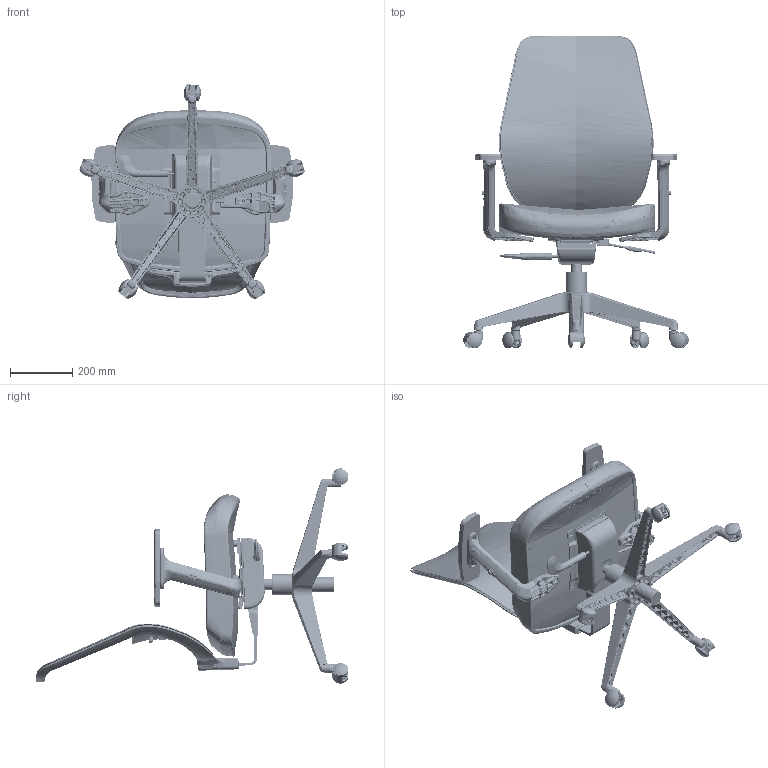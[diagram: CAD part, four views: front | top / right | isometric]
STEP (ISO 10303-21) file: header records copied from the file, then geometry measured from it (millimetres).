
FILE_DESCRIPTION((''),'2;1');
FILE_NAME('NERO_2_WD_MEC_BLK_CHAIR_0508_ASM','2024-08-05T',('shailendra.shah'),(''),'PRO/ENGINEER BY PARAMETRIC TECHNOLOGY CORPORATION, 2016100','PRO/ENGINEER BY PARAMETRIC TECHNOLOGY CORPORATION, 2016100','');
FILE_SCHEMA(('CONFIG_CONTROL_DESIGN'));
Length unit declared in the file: millimetre
Products named in the file (99): MANIFOLD_SOLID_BREP-15809_AF0_1; MANIFOLD_SOLID_BREP-15807_AF0__; MANIFOLD_SOLID_BREP-15805_AF0_1; MANIFOLD_SOLID_BREP-15803_AF0_1; ASM0010_AF0_ASM_4__ASM_1_ASM_1__ASM; ASM0009_AF0_ASM_4__ASM_2_ASM_1__ASM; MANIFOLD_SOLID_BREP_1901__1_1_1; MANIFOLD_SOLID_BREP_2218__1_1_1; _ASM0008_1__ASM_2_ASM_1_ASM_1_A_ASM; ASM0008_AF0_ASM_1__ASM_4_ASM_1__ASM; MANIFOLD_SOLID_BREP-15759_2__1_; ASM0010_ASM_4__ASM_2_1_1_1; ARM_ASM_3__1_1_1_1; MANIFOLD_SOLID_BREP-3_AF0_1__1_; MANIFOLD_SOLID_BREP-1_AF0_1__1_; A1_ASM_4__ASM_1_ASM_1_ASM_1_ASM_ASM; BASE_ASSLY_ASM_4__ASM_4_ASM_1_A_ASM; ASM0087__ASM_1_ASM_1_ASM_1_ASM__ASM; PRT0001_5__1_1_1_1; BREP_WITH_VOIDS_364073_1_1_1; MANIFOLD_SOLID_BREP_364190_1_1_; PRT0002_15__2_ASM_1_ASM_1_ASM_1_ASM; CASTOR_ASM_17__ASM_1_ASM_1_ASM__ASM; QUEST_SEAT_WOOD_1_1_1_1; FLUENCE_FOAM_THICKNESSINC_1_1_1; MANIFOLD_SOLID_BREP-1875_1__4_1; _3D_CAD_BLOCK_--_NERO_C_1_1_1_1; 3D_CAD_BLOCK_--_NERO_CHR__ASM_3_ASM; MANIFOLD_SOLID_BREP_1428_1_1__1; MANIFOLD_SOLID_BREP_2309_1_1__1; MANIFOLD_SOLID_BREP_4204_1_1__1; MANIFOLD_SOLID_BREP_5673_1_1__1; PRT0453_1_1__1_1_1_1; PRT0011_1_ASM_1_ASM_1__ASM_5_AS_ASM; FINAL_LOTUS_WITHLOGO_ASM_ASM_1__ASM; NERO_CHAIR_-_UPGRADED_VER_ASM_2_ASM; LUMBAR_SUPP_NERO_020624___1_1_1; PRT0452___1_1_1_1; LUMBAR_EXISTING_NERO__ASM_2_ASM_ASM; NERO_CHR_UPGRADED_260724_ASM_7__ASM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
Assembly tree (103 placements, depth 17):
  NERO_2_WD_MEC_BLK_CHAIR_0508_ASM
    A1_ASM_4_ASM
      FLUENCE_2_VERSION_26072-1345288_ASM
        ASM0086_ASM_1_ASM_1_ASM_1_ASM
          FLUENCE_2_VERSION_260720-274140_ASM
            ASM0087__ASM_1_ASM_1_ASM_1_ASM__ASM
              BASE_ASSLY_ASM_4__ASM_4_ASM_1_A_ASM
                ASM0008_AF0_ASM_1__ASM_4_ASM_1__ASM
                  ASM0009_AF0_ASM_4__ASM_2_ASM_1__ASM
                  _ASM0008_1__ASM_2_ASM_1_ASM_1_A_ASM
                MANIFOLD_SOLID_BREP-15759_2__1_
                ASM0010_ASM_4__ASM_2_1_1_1
                ARM_ASM_3__1_1_1_1
                A1_ASM_4__ASM_1_ASM_1_ASM_1_ASM_ASM
                  MANIFOLD_SOLID_BREP-3_AF0_1__1_
                  MANIFOLD_SOLID_BREP-1_AF0_1__1_
            CASTOR_ASM_17__ASM_1_ASM_1_ASM__ASM  x5
              PRT0001_5__1_1_1_1
              PRT0002_15__2_ASM_1_ASM_1_ASM_1_ASM
                BREP_WITH_VOIDS_364073_1_1_1
                MANIFOLD_SOLID_BREP_364190_1_1_
            QUEST_SEAT_WOOD_1_1_1_1
            FLUENCE_FOAM_THICKNESSINC_1_1_1
            NERO_CHR_UPGRADED_260724_ASM_7__ASM
              NERO_CHAIR_-_UPGRADED_VER_ASM_2_ASM
                3D_CAD_BLOCK_--_NERO_CHR__ASM_3_ASM
                  MANIFOLD_SOLID_BREP-1875_1__4_1
                  _3D_CAD_BLOCK_--_NERO_C_1_1_1_1
                FINAL_LOTUS_WITHLOGO_ASM_ASM_1__ASM
                  PRT0011_1_ASM_1_ASM_1__ASM_5_AS_ASM
              LUMBAR_EXISTING_NERO__ASM_2_ASM_ASM
                LUMBAR_SUPP_NERO_020624___1_1_1
                PRT0452___1_1_1_1
            ARM_ASSEMBLY_ASM_2_ASM_1_ASM_1__ASM
              MANIFOLD_SOLID_BREP-15_1_1_1_1
              MANIFOLD_SOLID_BREP-13_1_1_1_1
              MANIFOLD_SOLID_BREP-7_1_1_1_1
            PRT0550_1_1_1_1
            PRT0551_1_1_1_1
            PRT0553_1_1_1_1
          BACKFRAME_ASM_1_ASM_1_ASM_1
        ASM0086_ASM_1_ASM_1
      WITH_BACK_MESH_4
      ASD1_ASM_1_ASM
        ASM0086_ASM_1_ASM
          ASM0087_ASM_1_ASM
            B1_3__1_1
            _3D_CAD_BLOCK_--_NERO_C_1_1
    T727KSA-BP_1__ASM_1_ASM_ASM_ASM
      T727KSA-BP_1__ASM_1_ASM_ASM_1_ASM
        T727KSA-BP_1__ASM_1_ASM_1_ASM_1_ASM
          T727KSA-BP_ASM_ASM_1_ASM_1_ASM__ASM
            T727KSA-BP_ASM_ASM_ASM_1_ASM_1__ASM
              ASM0086_ASM
                ASM0087_ASM
                  ASM0008_ASM_1_ASM_1_ASM
                  PRT0310_1_1_1
            T727BQ-TJG_1_1_1_1
            SHOUBIN-Q_2_1_1_1
            T727NS-DB-_1_1_1_1_1
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Bounding box: 727.04 x 1006.91 x 693.28 mm (x, y, z)
Volume: 1610545.6 mm3; surface area: 3784500 mm2
Topology: 20 solids, 12645 shells, 18075 faces, 78210 edges, 72463 vertices
Faces by surface type: bspline 8217, cylinder 3790, plane 3541, extrusion 966, torus 878, sphere 363, cone 300, revolution 20
Entity records: 1362857 total; most frequent: CARTESIAN_POINT 939362, ORIENTED_EDGE 81549, EDGE_CURVE 66802, VERTEX_POINT 61448, B_SPLINE_CURVE_WITH_KNOTS 47088, DIRECTION 43105, EDGE_LOOP 16466, FACE_OUTER_BOUND 16142
